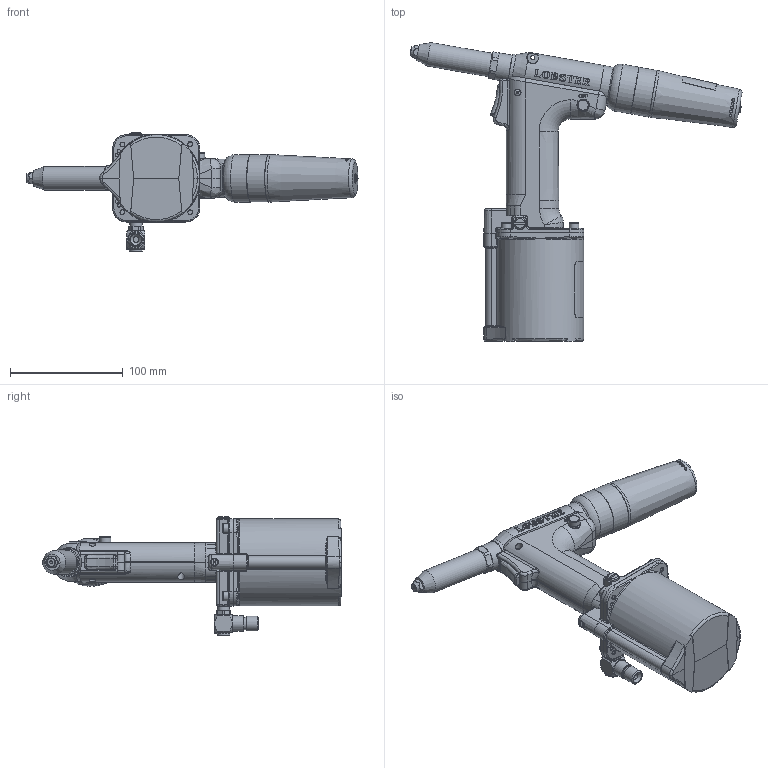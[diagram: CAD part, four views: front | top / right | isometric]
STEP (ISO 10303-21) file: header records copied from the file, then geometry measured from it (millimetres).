
FILE_DESCRIPTION (( 'STEP AP214' ), '1' );
FILE_NAME ('R1A1僗僥僢僾.STEP', '2017-04-06T06:35:53', ( '' ), ( '' ), 'SwSTEP 2.0', 'SolidWorks 2016', '' );
FILE_SCHEMA (( 'AUTOMOTIVE_DESIGN' ));
Length unit declared in the file: millimetre
Products named in the file (1): R1A1ステップ
Bounding box: 294.04 x 264.77 x 106.25 mm (x, y, z)
Surface area: 109125.1 mm2 (no closed solid volume)
Topology: 0 solids, 50 shells, 680 faces, 2255 edges, 1573 vertices
Faces by surface type: plane 287, cylinder 207, bspline 87, torus 48, cone 37, sphere 14
Full cylindrical faces by diameter (mm): 2.4 x1, 2.5 x6, 3 x4, 3.5 x1, 4.2 x4, 4.9 x1, 5 x1, 5.6 x1, 6 x8, 6.25 x1, 6.402 x1, 7 x1, 8 x1, 8.5 x4, 9 x1, 10 x2, 10.5 x3, 10.8 x1, 11 x3, 11.4 x2, 13.1 x1, 13.8 x1, 21 x1, 24 x1, 26 x1, 34 x2, 42 x3
Entity records: 39151 total; most frequent: CARTESIAN_POINT 14081, ORIENTED_EDGE 3390, DIRECTION 3388, EDGE_CURVE 2093, VERTEX_POINT 1527, AXIS2_PLACEMENT_3D 1266, VECTOR 856, LINE 856
